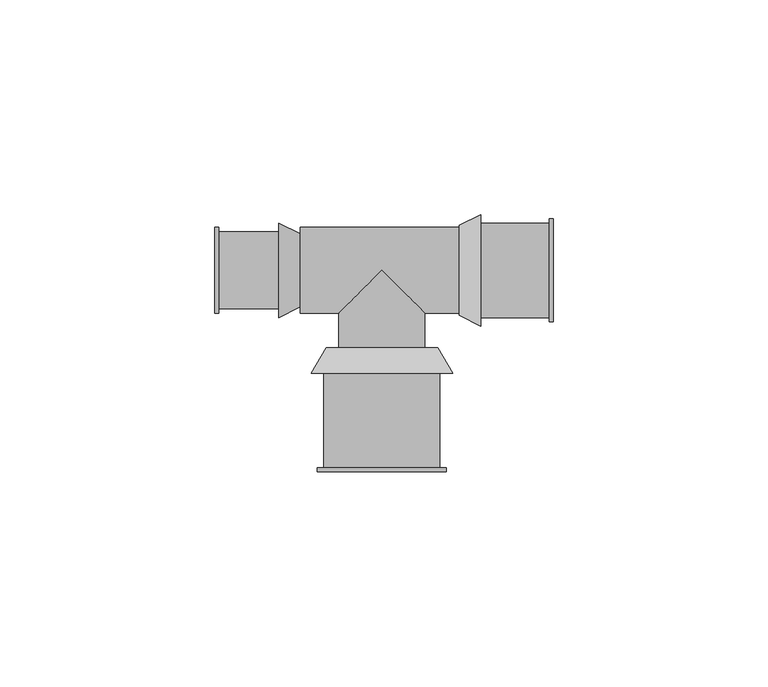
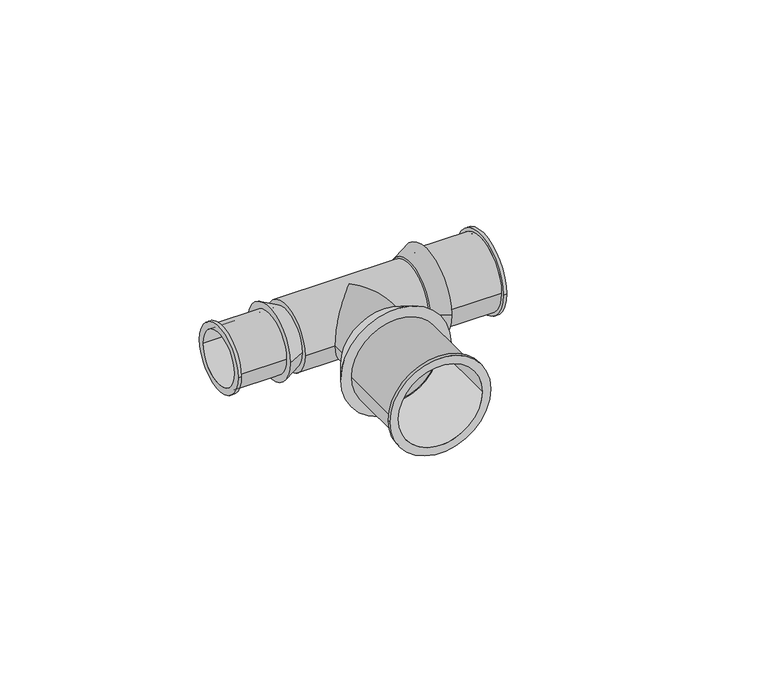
"""IFC4 building model written with IfcOpenShell, lengths in millimetres: pipe fitting geometry, SuperPipe_Tee_SPressPlus : SuperPipe_Tee_SPressPlus."""

import ifcopenshell
import ifcopenshell.guid

model = None  # the IFC model being written
_history = None  # IfcOwnerHistory: only IFC2X3 demands one
_inside = {}  # id of a spatial element -> (the spatial element, [elements in it])
_under = {}  # id of a project, library or spatial element -> (it, [spatial elements below it])
_declared = {}  # id of a project -> (the project, [libraries it declares])
_typed = {}  # id of a type object -> (the type object, [elements of that type])
_made_of = {}  # id of a material, layer set ... -> (it, [elements and type objects made of it])


def new_model(schema):
    """Start an empty IFC model of exactly this schema.

    Asked for "IFC4X3", IfcOpenShell would pick the latest addendum, in which some entities
    have other attributes; the version numbers below select the first issue.
    IFC2X3 requires an IfcOwnerHistory on every rooted entity: one is made here for all.
    """
    global model, _history
    if schema == "IFC4X3":
        model = ifcopenshell.file(schema_version=(4, 3, 0, 0))
    else:
        model = ifcopenshell.file(schema=schema)
    _inside.clear()
    _under.clear()
    _declared.clear()
    _typed.clear()
    _made_of.clear()
    _history = None
    if model.schema == "IFC2X3":
        org = make("IfcOrganization", Name="unknown")
        user = make(
            "IfcPersonAndOrganization",
            ThePerson=make("IfcPerson", FamilyName="unknown"),
            TheOrganization=org,
        )
        app = make(
            "IfcApplication",
            ApplicationDeveloper=org,
            Version="unknown",
            ApplicationFullName="unknown",
            ApplicationIdentifier="unknown",
        )
        _history = make(
            "IfcOwnerHistory",
            OwningUser=user,
            OwningApplication=app,
            ChangeAction="ADDED",
            CreationDate=0,
        )
    return model


def make(cls, **values):
    """One entity of the class cls with the attributes given. An attribute that is None is left unset."""
    return model.create_entity(
        cls, **{name: value for name, value in values.items() if value is not None}
    )


def rooted(cls, **values):
    """An entity with a GlobalId (a new one), such as an element, a storey or a relation."""
    return make(cls, GlobalId=ifcopenshell.guid.new(), OwnerHistory=_history, **values)


def si_unit(unit_type, name, prefix=None):
    """IfcSIUnit, for example si_unit("LENGTHUNIT", "METRE", prefix="MILLI")."""
    return make("IfcSIUnit", UnitType=unit_type, Prefix=prefix, Name=name)


def assignment(units):
    """IfcUnitAssignment: the units of a project."""
    return None if units is None else make("IfcUnitAssignment", Units=units)


def point(xyz):
    """IfcCartesianPoint."""
    return None if xyz is None else make("IfcCartesianPoint", Coordinates=xyz)


def direction(xyz):
    """IfcDirection."""
    return None if xyz is None else make("IfcDirection", DirectionRatios=xyz)


def frame(location, z_axis=None, x_axis=None):
    """IfcAxis2Placement3D, a coordinate frame: its origin and axes. An axis left out is left unset."""
    return make(
        "IfcAxis2Placement3D",
        Location=point(location),
        Axis=direction(z_axis),
        RefDirection=direction(x_axis),
    )


def frame_2d(location, x_axis=None):
    """IfcAxis2Placement2D, a coordinate frame in the plane: its origin and x axis."""
    return make(
        "IfcAxis2Placement2D", Location=point(location), RefDirection=direction(x_axis)
    )


def origin():
    """The frame at (0, 0, 0) with its axes left unset."""
    return frame((0.0, 0.0, 0.0))


def origin_2d():
    """The frame at (0, 0) in the plane with its x axis left unset."""
    return frame_2d((0.0, 0.0))


def place(relative_to, where):
    """IfcLocalPlacement: puts the frame where relative to a parent placement (None: the world)."""
    return make(
        "IfcLocalPlacement", PlacementRelTo=relative_to, RelativePlacement=where
    )


def context(
    kind, dimensions, precision=None, world=None, true_north=None, identifier=None
):
    """IfcGeometricRepresentationContext, for example the 3D "Model" context."""
    return make(
        "IfcGeometricRepresentationContext",
        ContextIdentifier=identifier,
        ContextType=kind,
        CoordinateSpaceDimension=dimensions,
        Precision=precision,
        WorldCoordinateSystem=world,
        TrueNorth=true_north,
    )


def project(units=None, contexts=None):
    """IfcProject with its units and contexts."""
    return rooted(
        "IfcProject",
        Name="project",
        RepresentationContexts=contexts,
        UnitsInContext=assignment(units),
    )


def spatial(cls, under=None, at=None, **own):
    """A site, building, storey or space (cls), placed at a placement, below another one or the project."""
    s = rooted(cls, ObjectPlacement=at, **own)
    if under is not None:
        _under.setdefault(under.id(), (under, []))[1].append(s)
    return s


def polyline(points):
    """IfcPolyline through the points."""
    return make("IfcPolyline", Points=[point(p) for p in points])


def circle_curve(where, radius):
    """IfcCircle in the frame where."""
    return make("IfcCircle", Position=where, Radius=radius)


def ellipse_curve(where, semi_axis1, semi_axis2):
    """IfcEllipse in the frame where."""
    return make(
        "IfcEllipse", Position=where, SemiAxis1=semi_axis1, SemiAxis2=semi_axis2
    )


def trimmed(basis, trim1, trim2, sense, master):
    """IfcTrimmedCurve: the piece of a basis curve between two trims."""
    return make(
        "IfcTrimmedCurve",
        BasisCurve=basis,
        Trim1=trim1,
        Trim2=trim2,
        SenseAgreement=sense,
        MasterRepresentation=master,
    )


def segment(curve, same_sense, transition):
    """IfcCompositeCurveSegment."""
    return make(
        "IfcCompositeCurveSegment",
        Transition=transition,
        SameSense=same_sense,
        ParentCurve=curve,
    )


def composite_curve(segments, self_intersect=None):
    """IfcCompositeCurve: segments joined end to end."""
    return make("IfcCompositeCurve", Segments=segments, SelfIntersect=self_intersect)


def outline(outer, holes=None, kind="AREA"):
    """IfcArbitraryClosedProfileDef: a profile drawn as a closed curve; with holes, ...WithVoids."""
    if holes is None:
        return make("IfcArbitraryClosedProfileDef", ProfileType=kind, OuterCurve=outer)
    return make(
        "IfcArbitraryProfileDefWithVoids",
        ProfileType=kind,
        OuterCurve=outer,
        InnerCurves=holes,
    )


def extrude(swept, where, along, depth):
    """IfcExtrudedAreaSolid: the profile swept, set in the frame where, extruded along a direction by depth."""
    return make(
        "IfcExtrudedAreaSolid",
        SweptArea=swept,
        Position=where,
        ExtrudedDirection=direction(along),
        Depth=depth,
    )


def shape(context_of_items, identifier, shape_type, items):
    """IfcShapeRepresentation: the items that make up one representation, for example the "Body"."""
    return make(
        "IfcShapeRepresentation",
        ContextOfItems=context_of_items,
        RepresentationIdentifier=identifier,
        RepresentationType=shape_type,
        Items=items,
    )


def source(mapping_origin, context_of_items, identifier, shape_type, items):
    """IfcRepresentationMap: a shape defined once, which mapped items show again and again."""
    return make(
        "IfcRepresentationMap",
        MappingOrigin=mapping_origin,
        MappedRepresentation=shape(context_of_items, identifier, shape_type, items),
    )


def transform(
    local_origin,
    x_axis=None,
    y_axis=None,
    z_axis=None,
    scale=None,
    scale2=None,
    scale3=None,
    uniform=True,
):
    """IfcCartesianTransformationOperator3D, or its non-uniform kind. x_axis, y_axis, z_axis: its Axis1, 2, 3."""
    if uniform:
        return make(
            "IfcCartesianTransformationOperator3D",
            Axis1=direction(x_axis),
            Axis2=direction(y_axis),
            LocalOrigin=point(local_origin),
            Scale=scale,
            Axis3=direction(z_axis),
        )
    return make(
        "IfcCartesianTransformationOperator3DnonUniform",
        Axis1=direction(x_axis),
        Axis2=direction(y_axis),
        LocalOrigin=point(local_origin),
        Scale=scale,
        Axis3=direction(z_axis),
        Scale2=scale2,
        Scale3=scale3,
    )


def mapped(mapping_source, mapping_target):
    """IfcMappedItem: shows the shape of a source again, moved by a transform."""
    return make(
        "IfcMappedItem", MappingSource=mapping_source, MappingTarget=mapping_target
    )


def made_of(thing, what):
    """Note that an element or type object is made of a material, layer set ...; save() writes the relation."""
    if what is not None:
        _made_of.setdefault(what.id(), (what, []))[1].append(thing)
    return thing


def element(
    cls,
    number,
    at=None,
    inside=None,
    cuts=None,
    type_object=None,
    material=None,
    context=None,
    identifier="Body",
    shape_type=None,
    held_by="IfcProductDefinitionShape",
    body=None,
    shapes=None,
    **own,
):
    """One element of the class cls, such as IfcWall. Its Tag is "e" and its number.

    at: its placement. inside: the storey or other place that contains it. cuts: it is an
    opening in that element (IfcRelVoidsElement). A single representation is given by context,
    identifier, shape_type and body (its items); several are given by shapes. held_by: the class
    of the entity that holds the representations. save() writes the other relations.
    """
    e = rooted(cls, Tag="e%d" % number, ObjectPlacement=at, **own)
    if body is not None:
        shapes = [shape(context, identifier, shape_type, body)]
    if shapes is not None:
        e.Representation = make(held_by, Representations=shapes)
    if inside is not None:
        _inside.setdefault(inside.id(), (inside, []))[1].append(e)
    if cuts is not None:
        rooted(
            "IfcRelVoidsElement", RelatingBuildingElement=cuts, RelatedOpeningElement=e
        )
    if type_object is not None:
        _typed.setdefault(type_object.id(), (type_object, []))[1].append(e)
    return made_of(e, material)


def aggregate(whole, parts):
    """IfcRelAggregates: a whole, such as a stair, and the parts it consists of."""
    return rooted("IfcRelAggregates", RelatingObject=whole, RelatedObjects=parts)


def save(model, path):
    """Write the relations noted so far, then the file.

    IfcRelAggregates (storeys below a building ...), IfcRelContainedInSpatialStructure (elements
    in a storey), IfcRelDefinesByType, IfcRelAssociatesMaterial and IfcRelDeclares: one each for
    every whole, place, type object, material and project.
    """
    for whole, parts in _under.values():
        aggregate(whole, parts)
    for where, things in _inside.values():
        rooted(
            "IfcRelContainedInSpatialStructure",
            RelatedElements=things,
            RelatingStructure=where,
        )
    for kind, things in _typed.values():
        rooted("IfcRelDefinesByType", RelatedObjects=things, RelatingType=kind)
    for what, things in _made_of.values():
        rooted("IfcRelAssociatesMaterial", RelatedObjects=things, RelatingMaterial=what)
    for by, libraries in _declared.values():
        rooted("IfcRelDeclares", RelatingContext=by, RelatedDefinitions=libraries)
    model.write(path)


def plane_surface(at):
    """IfcPlane: the flat surface through the origin of the frame at, square to its z axis."""
    return make("IfcPlane", Position=at)


def cylinder_surface(at, radius):
    """IfcCylindricalSurface: all points at the distance radius from the z axis of the frame at."""
    return make("IfcCylindricalSurface", Position=at, Radius=radius)


def revolved_surface(curve, axis_point, axis_direction):
    """IfcSurfaceOfRevolution: the curve turned about the line through axis_point along axis_direction."""
    return make(
        "IfcSurfaceOfRevolution",
        SweptCurve=make("IfcArbitraryOpenProfileDef", ProfileType="CURVE", Curve=curve),
        AxisPosition=make("IfcAxis1Placement", Location=point(axis_point), Axis=direction(axis_direction)),
    )


def advanced_brep(points, edges, surfaces, faces):
    """IfcAdvancedBrep: a solid bounded by faces that lie on surfaces and meet in shared edges.

    An edge is (start, end): straight between two places in points (the first is 0);
    or (start, end, curve); or (start, end, curve, False) where it runs against its curve.
    A face is (place in surfaces, loops), or (place, loops, False) where it looks against
    its surface's normal. A loop lists edges by number (the first is 1), with a minus sign
    where the edge is run from its end to its start. The first loop is the outer one.
    """
    corners = [point(p) for p in points]
    vertices = [make("IfcVertexPoint", VertexGeometry=c) for c in corners]
    made = []
    for start, end, *more in edges:
        made.append(
            make(
                "IfcEdgeCurve",
                EdgeStart=vertices[start],
                EdgeEnd=vertices[end],
                EdgeGeometry=more[0] if more else make("IfcPolyline", Points=[corners[start], corners[end]]),
                SameSense=more[1] if len(more) > 1 else True,
            )
        )
    hull = []
    for where, loops, *sense in faces:
        bounds = []
        for j, loop in enumerate(loops):
            ring = [make("IfcOrientedEdge", EdgeElement=made[abs(k) - 1], Orientation=k > 0) for k in loop]
            bounds.append(
                make(
                    "IfcFaceOuterBound" if j == 0 else "IfcFaceBound",
                    Bound=make("IfcEdgeLoop", EdgeList=ring),
                    Orientation=True,
                )
            )
        hull.append(make("IfcAdvancedFace", Bounds=bounds, FaceSurface=surfaces[where], SameSense=sense[0] if sense else True))
    return make("IfcAdvancedBrep", Outer=make("IfcClosedShell", CfsFaces=hull))


def pipe_fitting_6f6e23ca(model_context):
    return source(origin(), model_context, "Body", "SolidModel", [
        advanced_brep(
        [(-39.0, -10.0, 0.0), (-39.0, 10.0, 0.0), (-39.0, -8.0, 0.0), (-39.0, 8.0, 0.0), (-24.0, -9.0, 0.0), (-24.0, 9.0, 0.0), (-24.0, -8.0, 0.0), (-24.0, 8.0, 0.0), (-38.0, -8.0, 0.0), (-38.0, 8.0, 0.0), (-38.0, 9.0, 0.0), (-38.0, -9.0, 0.0), (-38.0, -10.0, 0.0), (-38.0, 10.0, 0.0)],
        [
            (0, 1, circle_curve(frame((-39.0, 0.0, 0.0), z_axis=(-1.0, 0.0, 0.0), x_axis=(0.0, 1.0, 0.0)), 10.0)),
            (1, 0, circle_curve(frame((-39.0, 0.0, 0.0), z_axis=(-1.0, 0.0, 0.0), x_axis=(0.0, 1.0, 0.0)), 10.0)),
            (2, 3, circle_curve(frame((-39.0, 0.0, 0.0), z_axis=(1.0, 0.0, 0.0), x_axis=(0.0, 1.0, 0.0)), 8.0)),
            (3, 2, circle_curve(frame((-39.0, 0.0, 0.0), z_axis=(1.0, 0.0, 0.0), x_axis=(0.0, 1.0, 0.0)), 8.0)),
            (4, 5, circle_curve(frame((-24.0, 0.0, 0.0), z_axis=(1.0, 0.0, 0.0), x_axis=(0.0, 1.0, 0.0)), 9.0)),
            (5, 4, circle_curve(frame((-24.0, 0.0, 0.0), z_axis=(1.0, 0.0, 0.0), x_axis=(0.0, 1.0, 0.0)), 9.0)),
            (6, 7, circle_curve(frame((-24.0, 0.0, 0.0), z_axis=(-1.0, 0.0, 0.0), x_axis=(0.0, 1.0, 0.0)), 8.0)),
            (7, 6, circle_curve(frame((-24.0, 0.0, 0.0), z_axis=(-1.0, 0.0, 0.0), x_axis=(0.0, 1.0, 0.0)), 8.0)),
            (2, 8),
            (8, 6),
            (7, 9),
            (9, 3),
            (5, 10),
            (10, 11, circle_curve(frame((-38.0, 0.0, 0.0), z_axis=(1.0, 0.0, 0.0), x_axis=(0.0, 1.0, 0.0)), 9.0)),
            (11, 4),
            (11, 10, circle_curve(frame((-38.0, 0.0, 0.0), z_axis=(1.0, 0.0, 0.0), x_axis=(0.0, 1.0, 0.0)), 9.0)),
            (12, 13, circle_curve(frame((-38.0, 0.0, 0.0), z_axis=(1.0, 0.0, 0.0), x_axis=(0.0, 1.0, 0.0)), 10.0)),
            (13, 12, circle_curve(frame((-38.0, 0.0, 0.0), z_axis=(1.0, 0.0, 0.0), x_axis=(0.0, 1.0, 0.0)), 10.0)),
            (0, 12),
            (13, 1),
        ],
        [
            plane_surface(frame((-39.0, 0.0, 0.0), z_axis=(-1.0, 0.0, 0.0), x_axis=(0.0, 0.0, 1.0))),
            plane_surface(frame((-24.0, 0.0, 0.0), z_axis=(1.0, 0.0, 0.0), x_axis=(0.0, 0.0, 1.0))),
            revolved_surface(polyline([(-24.0, 8.0, 0.0), (-39.0, 8.0, 0.0)]), (-39.0, 0.0, 0.0), (1.0, 0.0, 0.0)),
            cylinder_surface(frame((-39.0, 0.0, 0.0), z_axis=(-1.0, 0.0, 0.0), x_axis=(0.0, 1.0, 0.0)), 9.0),
            plane_surface(frame((-38.0, 0.0, 0.0), z_axis=(1.0, 0.0, 0.0), x_axis=(0.0, 0.0, 1.0))),
            cylinder_surface(frame((-39.0, 0.0, 0.0), z_axis=(-1.0, 0.0, 0.0), x_axis=(0.0, 1.0, 0.0)), 10.0),
        ],
        [
            (0, [[1, 2], [3, 4]]),
            (1, [[5, 6], [7, 8]]),
            (2, [[-3, 9, 10, -8, 11, 12]]),
            (2, [[-4, -12, -11, -7, -10, -9]]),
            (3, [[-6, 13, 14, 15]]),
            (3, [[-5, -15, 16, -13]]),
            (4, [[17, 18], [-14, -16]]),
            (5, [[-1, 19, -18, 20]]),
            (5, [[-2, -20, -17, -19]]),
        ],
    ),
        advanced_brep(
        [(23.0, -11.0, 0.0), (23.0, 11.0, 0.0), (23.0, -10.0, 0.0), (23.0, 10.0, 0.0), (40.0, -12.0, 0.0), (40.0, 12.0, 0.0), (40.0, -10.0, 0.0), (40.0, 10.0, 0.0), (39.0, -11.0, 0.0), (39.0, 11.0, 0.0), (39.0, -10.0, 0.0), (39.0, 10.0, 0.0), (39.0, -12.0, 0.0), (39.0, 12.0, 0.0)],
        [
            (0, 1, circle_curve(frame((23.0, 0.0, 0.0), z_axis=(-1.0, 0.0, 0.0), x_axis=(0.0, 1.0, 0.0)), 11.0)),
            (1, 0, circle_curve(frame((23.0, 0.0, 0.0), z_axis=(-1.0, 0.0, 0.0), x_axis=(0.0, 1.0, 0.0)), 11.0)),
            (2, 3, circle_curve(frame((23.0, 0.0, 0.0), z_axis=(1.0, 0.0, 0.0), x_axis=(0.0, 1.0, 0.0)), 10.0)),
            (3, 2, circle_curve(frame((23.0, 0.0, 0.0), z_axis=(1.0, 0.0, 0.0), x_axis=(0.0, 1.0, 0.0)), 10.0)),
            (4, 5, circle_curve(frame((40.0, 0.0, 0.0), z_axis=(1.0, 0.0, 0.0), x_axis=(0.0, 1.0, 0.0)), 12.0)),
            (5, 4, circle_curve(frame((40.0, 0.0, 0.0), z_axis=(1.0, 0.0, 0.0), x_axis=(0.0, 1.0, 0.0)), 12.0)),
            (6, 7, circle_curve(frame((40.0, 0.0, 0.0), z_axis=(-1.0, 0.0, 0.0), x_axis=(0.0, 1.0, 0.0)), 10.0)),
            (7, 6, circle_curve(frame((40.0, 0.0, 0.0), z_axis=(-1.0, 0.0, 0.0), x_axis=(0.0, 1.0, 0.0)), 10.0)),
            (0, 8),
            (8, 9, circle_curve(frame((39.0, 0.0, 0.0), z_axis=(-1.0, 0.0, 0.0), x_axis=(0.0, 1.0, 0.0)), 11.0)),
            (9, 1),
            (9, 8, circle_curve(frame((39.0, 0.0, 0.0), z_axis=(-1.0, 0.0, 0.0), x_axis=(0.0, 1.0, 0.0)), 11.0)),
            (2, 10),
            (10, 6),
            (7, 11),
            (11, 3),
            (12, 13, circle_curve(frame((39.0, 0.0, 0.0), z_axis=(-1.0, 0.0, 0.0), x_axis=(0.0, 1.0, 0.0)), 12.0)),
            (13, 12, circle_curve(frame((39.0, 0.0, 0.0), z_axis=(-1.0, 0.0, 0.0), x_axis=(0.0, 1.0, 0.0)), 12.0)),
            (12, 4),
            (5, 13),
        ],
        [
            plane_surface(frame((23.0, 0.0, 0.0), z_axis=(-1.0, 0.0, 0.0), x_axis=(0.0, 0.0, 1.0))),
            plane_surface(frame((40.0, 0.0, 0.0), z_axis=(1.0, 0.0, 0.0), x_axis=(0.0, 0.0, 1.0))),
            cylinder_surface(frame((23.0, 0.0, 0.0), z_axis=(-1.0, 0.0, 0.0), x_axis=(0.0, 1.0, 0.0)), 11.0),
            revolved_surface(polyline([(40.0, 10.0, 0.0), (23.0, 10.0, 0.0)]), (23.0, 0.0, 0.0), (1.0, 0.0, 0.0)),
            plane_surface(frame((39.0, 0.0, 0.0), z_axis=(-1.0, 0.0, 0.0), x_axis=(0.0, 0.0, 1.0))),
            cylinder_surface(frame((39.0, 0.0, 0.0), z_axis=(-1.0, 0.0, 0.0), x_axis=(0.0, 1.0, 0.0)), 12.0),
        ],
        [
            (0, [[1, 2], [3, 4]]),
            (1, [[5, 6], [7, 8]]),
            (2, [[-1, 9, 10, 11]]),
            (2, [[-2, -11, 12, -9]]),
            (3, [[-3, 13, 14, -8, 15, 16]]),
            (3, [[-4, -16, -15, -7, -14, -13]]),
            (4, [[17, 18], [-10, -12]]),
            (5, [[-17, 19, -6, 20]]),
            (5, [[-18, -20, -5, -19]]),
        ],
    ),
        advanced_brep(
        [(-16.5, -24.0, 0.0), (16.5, -24.0, 0.0), (-12.5, -24.0, 0.0), (12.5, -24.0, 0.0), (-13.0, -18.0, 0.0), (13.0, -18.0, 0.0), (-12.5, -19.0, 0.0), (12.5, -19.0, 0.0)],
        [
            (0, 1, circle_curve(frame((0.0, -24.0, 0.0), z_axis=(0.0, -1.0, 0.0), x_axis=(-1.0, 0.0, 0.0)), 16.5)),
            (1, 0, circle_curve(frame((0.0, -24.0, 0.0), z_axis=(0.0, -1.0, 0.0), x_axis=(1.0, 0.0, 0.0)), 16.5)),
            (2, 3, circle_curve(frame((0.0, -24.0, 0.0), z_axis=(0.0, 1.0, 0.0), x_axis=(1.0, 0.0, 0.0)), 12.5)),
            (3, 2, circle_curve(frame((0.0, -24.0, 0.0), z_axis=(0.0, 1.0, 0.0), x_axis=(1.0, 0.0, 0.0)), 12.5)),
            (4, 5, circle_curve(frame((0.0, -18.0, 0.0), z_axis=(0.0, 1.0, 0.0), x_axis=(1.0, 0.0, 0.0)), 13.0)),
            (5, 4, circle_curve(frame((0.0, -18.0, 0.0), z_axis=(0.0, 1.0, 0.0), x_axis=(-1.0, 0.0, 0.0)), 13.0)),
            (0, 4),
            (5, 1),
            (6, 7, circle_curve(frame((0.0, -19.0, 0.0), z_axis=(0.0, -1.0, 0.0), x_axis=(1.0, 0.0, 0.0)), 12.5)),
            (7, 6, circle_curve(frame((0.0, -19.0, 0.0), z_axis=(0.0, -1.0, 0.0), x_axis=(1.0, 0.0, 0.0)), 12.5)),
            (7, 3),
            (2, 6),
        ],
        [
            plane_surface(frame((0.0, -24.0, 0.0), z_axis=(0.0, -1.0, 0.0), x_axis=(0.0, 0.0, -1.0))),
            plane_surface(frame((0.0, -18.0, 0.0), z_axis=(0.0, 1.0, 0.0), x_axis=(0.0, 0.0, -1.0))),
            revolved_surface(polyline([(13.000000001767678, -18.0, 0.0), (16.5, -24.0, 0.0)]), (0.0, 4.2857143, 0.0), (0.0, -1.0, 0.0)),
            revolved_surface(polyline([(-13.000000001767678, -18.0, 0.0), (-16.5, -24.0, 0.0)]), (0.0, 4.2857143, 0.0), (0.0, -1.0, 0.0)),
            plane_surface(frame((0.0, -19.0, 0.0), z_axis=(0.0, -1.0, 0.0), x_axis=(0.0, 0.0, 1.0))),
            revolved_surface(polyline([(12.5, -19.0, 0.0), (12.5, -24.0, 0.0)]), (0.0, -19.0, 0.0), (0.0, 1.0, 0.0)),
        ],
        [
            (0, [[1, 2], [3, 4]]),
            (1, [[5, 6]]),
            (2, [[-1, 7, -6, 8]]),
            (3, [[-2, -8, -5, -7]]),
            (4, [[9, 10]]),
            (5, [[-10, 11, -3, 12]]),
            (5, [[-9, -12, -4, -11]]),
        ],
    ),
        advanced_brep(
        [(23.0, -13.0, 0.0), (23.0, 13.0, 0.0), (23.0, 10.0, 0.0), (23.0, -10.0, 0.0), (18.0, -10.5, 0.0), (18.0, 10.5, 0.0), (19.0, -10.0, 0.0), (19.0, 10.0, 0.0)],
        [
            (0, 1, circle_curve(frame((23.0, 0.0, 0.0), z_axis=(1.0, 0.0, 0.0), x_axis=(0.0, -1.0, 0.0)), 13.0)),
            (1, 0, circle_curve(frame((23.0, 0.0, 0.0), z_axis=(1.0, 0.0, 0.0), x_axis=(0.0, 1.0, 0.0)), 13.0)),
            (2, 3, circle_curve(frame((23.0, 0.0, 0.0), z_axis=(-1.0, 0.0, 0.0), x_axis=(0.0, 1.0, 0.0)), 10.0)),
            (3, 2, circle_curve(frame((23.0, 0.0, 0.0), z_axis=(-1.0, 0.0, 0.0), x_axis=(0.0, 1.0, 0.0)), 10.0)),
            (4, 5, circle_curve(frame((18.0, 0.0, 0.0), z_axis=(-1.0, 0.0, 0.0), x_axis=(0.0, 1.0, 0.0)), 10.5)),
            (5, 4, circle_curve(frame((18.0, 0.0, 0.0), z_axis=(-1.0, 0.0, 0.0), x_axis=(0.0, -1.0, 0.0)), 10.5)),
            (0, 4),
            (5, 1),
            (6, 7, circle_curve(frame((19.0, 0.0, 0.0), z_axis=(1.0, 0.0, 0.0), x_axis=(0.0, 1.0, 0.0)), 10.0)),
            (7, 6, circle_curve(frame((19.0, 0.0, 0.0), z_axis=(1.0, 0.0, 0.0), x_axis=(0.0, 1.0, 0.0)), 10.0)),
            (6, 3),
            (2, 7),
        ],
        [
            plane_surface(frame((23.0, 0.0, 0.0), z_axis=(1.0, 0.0, 0.0), x_axis=(0.0, 0.0, -1.0))),
            plane_surface(frame((18.0, 0.0, 0.0), z_axis=(-1.0, 0.0, 0.0), x_axis=(0.0, 0.0, -1.0))),
            revolved_surface(polyline([(18.0, 10.5, 0.0), (23.0, 13.0, 0.0)]), (-3.0, 0.0, 0.0), (1.0, 0.0, 0.0)),
            revolved_surface(polyline([(18.0, -10.5, 0.0), (23.0, -13.0, 0.0)]), (-3.0, 0.0, 0.0), (1.0, 0.0, 0.0)),
            plane_surface(frame((19.0, 10.0, 0.0), z_axis=(1.0, 0.0, 0.0), x_axis=(0.0, 0.0, -1.0))),
            revolved_surface(polyline([(23.0, 10.0, 0.0), (19.0, 10.0, 0.0)]), (19.0, 0.0, 0.0), (1.0, 0.0, 0.0)),
        ],
        [
            (0, [[1, 2], [3, 4]]),
            (1, [[5, 6]]),
            (2, [[-1, 7, -6, 8]]),
            (3, [[-2, -8, -5, -7]]),
            (4, [[9, 10]]),
            (5, [[-9, 11, -3, 12]]),
            (5, [[-10, -12, -4, -11]]),
        ],
    ),
        advanced_brep(
        [(-19.0, -8.5, 0.0), (-19.0, 8.5, 0.0), (-24.0, -11.0, 0.0), (-24.0, 11.0, 0.0), (-24.0, -8.0, 0.0), (-24.0, 8.0, 0.0), (-20.0, -8.0, 0.0), (-20.0, 8.0, 0.0)],
        [
            (0, 1, circle_curve(frame((-19.0, 0.0, 0.0), z_axis=(1.0, 0.0, 0.0), x_axis=(0.0, -1.0, 0.0)), 8.5)),
            (1, 0, circle_curve(frame((-19.0, 0.0, 0.0), z_axis=(1.0, 0.0, 0.0), x_axis=(0.0, 1.0, 0.0)), 8.5)),
            (2, 3, circle_curve(frame((-24.0, 0.0, 0.0), z_axis=(-1.0, 0.0, 0.0), x_axis=(0.0, 1.0, 0.0)), 11.0)),
            (3, 2, circle_curve(frame((-24.0, 0.0, 0.0), z_axis=(-1.0, 0.0, 0.0), x_axis=(0.0, -1.0, 0.0)), 11.0)),
            (4, 5, circle_curve(frame((-24.0, 0.0, 0.0), z_axis=(1.0, 0.0, 0.0), x_axis=(0.0, 1.0, 0.0)), 8.0)),
            (5, 4, circle_curve(frame((-24.0, 0.0, 0.0), z_axis=(1.0, 0.0, 0.0), x_axis=(0.0, 1.0, 0.0)), 8.0)),
            (0, 2),
            (3, 1),
            (6, 7, circle_curve(frame((-20.0, 0.0, 0.0), z_axis=(-1.0, 0.0, 0.0), x_axis=(0.0, 1.0, 0.0)), 8.0)),
            (7, 6, circle_curve(frame((-20.0, 0.0, 0.0), z_axis=(-1.0, 0.0, 0.0), x_axis=(0.0, 1.0, 0.0)), 8.0)),
            (7, 5),
            (4, 6),
        ],
        [
            plane_surface(frame((-19.0, 0.0, 0.0), z_axis=(1.0, 0.0, 0.0), x_axis=(0.0, 0.0, -1.0))),
            plane_surface(frame((-24.0, 0.0, 0.0), z_axis=(-1.0, 0.0, 0.0), x_axis=(0.0, 0.0, -1.0))),
            revolved_surface(polyline([(-19.0, -8.5, 0.0), (-24.0, -11.0, 0.0)]), (-2.0, 0.0, 0.0), (-1.0, 0.0, 0.0)),
            revolved_surface(polyline([(-19.0, 8.5, 0.0), (-24.0, 11.0, 0.0)]), (-2.0, 0.0, 0.0), (-1.0, 0.0, 0.0)),
            plane_surface(frame((-20.0, 8.0, 0.0), z_axis=(-1.0, 0.0, 0.0), x_axis=(0.0, 0.0, 1.0))),
            revolved_surface(polyline([(-20.0, 8.0, 0.0), (-24.0, 8.0, 0.0)]), (-24.0, 0.0, 0.0), (1.0, 0.0, 0.0)),
        ],
        [
            (0, [[1, 2]]),
            (1, [[3, 4], [5, 6]]),
            (2, [[-1, 7, -4, 8]]),
            (3, [[-2, -8, -3, -7]]),
            (4, [[9, 10]]),
            (5, [[-10, 11, -5, 12]]),
            (5, [[-9, -12, -6, -11]]),
        ],
    ),
        advanced_brep(
        [(-10.0, -18.0, 0.0), (10.0, -18.0, 0.0), (10.0, -10.0, 0.0), (0.0, 0.0, 10.0), (-10.0, -10.0, 0.0), (0.0, 0.0, -10.0)],
        [
            (0, 1, circle_curve(frame((0.0, -18.0, 0.0), z_axis=(0.0, -1.0, 0.0), x_axis=(1.0, 0.0, 0.0)), 10.0)),
            (1, 0, circle_curve(frame((0.0, -18.0, 0.0), z_axis=(0.0, -1.0, 0.0), x_axis=(1.0, 0.0, 0.0)), 10.0)),
            (1, 2),
            (2, 3, ellipse_curve(frame((0.0, 0.0, 0.0), z_axis=(-0.7071067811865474, -0.7071067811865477, 0.0), x_axis=(-0.7071067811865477, 0.7071067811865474, 0.0)), 14.1421356, 10.0)),
            (3, 4, ellipse_curve(frame((0.0, 0.0, 0.0), z_axis=(0.7071067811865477, -0.7071067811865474, 0.0), x_axis=(0.7071067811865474, 0.7071067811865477, 0.0)), 14.1421356, 10.0)),
            (4, 0),
            (4, 5, ellipse_curve(frame((0.0, 0.0, 0.0), z_axis=(0.7071067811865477, -0.7071067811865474, 0.0), x_axis=(0.7071067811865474, 0.7071067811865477, 0.0)), 14.1421356, 10.0)),
            (5, 2, ellipse_curve(frame((0.0, 0.0, 0.0), z_axis=(-0.7071067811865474, -0.7071067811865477, 0.0), x_axis=(-0.7071067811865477, 0.7071067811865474, 0.0)), 14.1421356, 10.0)),
            (2, 4),
        ],
        [
            plane_surface(frame((0.0, -18.0, 0.0), z_axis=(0.0, -1.0, 0.0), x_axis=(0.0, 0.0, 1.0))),
            cylinder_surface(frame((0.0, 0.0, 0.0), z_axis=(0.0, 1.0, 0.0), x_axis=(1.0, 0.0, 0.0)), 10.0),
            revolved_surface(polyline([(-10.0, 10.0, 0.0), (10.0, 10.0, 0.0)]), (-95.8358145, 0.0, 0.0), (-1.0, 0.0, 0.0)),
        ],
        [
            (0, [[1, 2]]),
            (1, [[-2, 3, 4, 5, 6]]),
            (1, [[-1, -6, 7, 8, -3]]),
            (2, [[9, -5, -4]]),
            (2, [[-9, -8, -7]]),
        ],
    ),
        advanced_brep(
        [(-13.5, -24.0, 0.0), (13.5, -24.0, 0.0), (-12.5, -24.0, 0.0), (12.5, -24.0, 0.0), (-15.0, -47.0, 0.0), (15.0, -47.0, 0.0), (-12.5, -47.0, 0.0), (12.5, -47.0, 0.0), (-13.5, -46.0, 0.0), (13.5, -46.0, 0.0), (-15.0, -46.0, 0.0), (15.0, -46.0, 0.0)],
        [
            (0, 1, circle_curve(frame((0.0, -24.0, 0.0), z_axis=(0.0, 1.0, 0.0), x_axis=(1.0, 0.0, 0.0)), 13.5)),
            (1, 0, circle_curve(frame((0.0, -24.0, 0.0), z_axis=(0.0, 1.0, 0.0), x_axis=(1.0, 0.0, 0.0)), 13.5)),
            (2, 3, circle_curve(frame((0.0, -24.0, 0.0), z_axis=(0.0, -1.0, 0.0), x_axis=(1.0, 0.0, 0.0)), 12.5)),
            (3, 2, circle_curve(frame((0.0, -24.0, 0.0), z_axis=(0.0, -1.0, 0.0), x_axis=(1.0, 0.0, 0.0)), 12.5)),
            (4, 5, circle_curve(frame((0.0, -47.0, 0.0), z_axis=(0.0, -1.0, 0.0), x_axis=(1.0, 0.0, 0.0)), 15.0)),
            (5, 4, circle_curve(frame((0.0, -47.0, 0.0), z_axis=(0.0, -1.0, 0.0), x_axis=(1.0, 0.0, 0.0)), 15.0)),
            (6, 7, circle_curve(frame((0.0, -47.0, 0.0), z_axis=(0.0, 1.0, 0.0), x_axis=(1.0, 0.0, 0.0)), 12.5)),
            (7, 6, circle_curve(frame((0.0, -47.0, 0.0), z_axis=(0.0, 1.0, 0.0), x_axis=(1.0, 0.0, 0.0)), 12.5)),
            (2, 6),
            (7, 3),
            (0, 8),
            (8, 9, circle_curve(frame((0.0, -46.0, 0.0), z_axis=(0.0, 1.0, 0.0), x_axis=(1.0, 0.0, 0.0)), 13.5)),
            (9, 1),
            (9, 8, circle_curve(frame((0.0, -46.0, 0.0), z_axis=(0.0, 1.0, 0.0), x_axis=(1.0, 0.0, 0.0)), 13.5)),
            (10, 11, circle_curve(frame((0.0, -46.0, 0.0), z_axis=(0.0, 1.0, 0.0), x_axis=(1.0, 0.0, 0.0)), 15.0)),
            (11, 10, circle_curve(frame((0.0, -46.0, 0.0), z_axis=(0.0, 1.0, 0.0), x_axis=(1.0, 0.0, 0.0)), 15.0)),
            (10, 4),
            (5, 11),
        ],
        [
            plane_surface(frame((0.0, -24.0, 0.0), z_axis=(0.0, 1.0, 0.0), x_axis=(0.0, 0.0, 1.0))),
            plane_surface(frame((0.0, -47.0, 0.0), z_axis=(0.0, -1.0, 0.0), x_axis=(0.0, 0.0, 1.0))),
            revolved_surface(polyline([(12.5, -47.0, 0.0), (12.5, -24.0, 0.0)]), (0.0, -24.0, 0.0), (0.0, -1.0, 0.0)),
            cylinder_surface(frame((0.0, -24.0, 0.0), z_axis=(0.0, 1.0, 0.0), x_axis=(1.0, 0.0, 0.0)), 13.5),
            plane_surface(frame((0.0, -46.0, 0.0), z_axis=(0.0, 1.0, 0.0), x_axis=(0.0, 0.0, 1.0))),
            cylinder_surface(frame((0.0, -46.0, 0.0), z_axis=(0.0, 1.0, 0.0), x_axis=(1.0, 0.0, 0.0)), 15.0),
        ],
        [
            (0, [[1, 2], [3, 4]]),
            (1, [[5, 6], [7, 8]]),
            (2, [[-3, 9, -8, 10]]),
            (2, [[-4, -10, -7, -9]]),
            (3, [[-1, 11, 12, 13]]),
            (3, [[-2, -13, 14, -11]]),
            (4, [[15, 16], [-12, -14]]),
            (5, [[-15, 17, -6, 18]]),
            (5, [[-16, -18, -5, -17]]),
        ],
    ),
        extrude(outline(composite_curve([segment(trimmed(circle_curve(origin_2d(), 10.0), [point((-10.0, 0.0))], [point((10.0, 0.0))], False, "CARTESIAN"), True, "CONTINUOUS"), segment(trimmed(circle_curve(origin_2d(), 10.0), [point((10.0, 0.0))], [point((-10.0, 0.0))], False, "CARTESIAN"), True, "CONTINUOUS")], self_intersect=False)), frame((-19.0, 0.0, 0.0), z_axis=(1.0, 0.0, 0.0), x_axis=(0.0, 1.0, 0.0)), (0.0, 0.0, 1.0), 37.0),
    ])


if __name__ == "__main__":
    model = new_model("IFC4")
    model_context = context("Model", 3, world=origin())
    ifc_project = project(units=[si_unit("LENGTHUNIT", "METRE", prefix="MILLI")], contexts=[model_context])
    site = spatial("IfcSite", under=ifc_project)
    building = spatial("IfcBuilding", under=site)
    placement = place(None, origin())
    pipe_fitting_shape = pipe_fitting_6f6e23ca(model_context)
    element("IfcPipeFitting", 1, ObjectType="SuperPipe_Tee_SPressPlus : SuperPipe_Tee_SPressPlus", at=placement, inside=building, context=model_context, shape_type="MappedRepresentation", body=[
        mapped(pipe_fitting_shape, transform((0.0, 0.0, 0.0), x_axis=(1.0, 0.0, 0.0), y_axis=(0.0, 1.0, 0.0), z_axis=(0.0, 0.0, 1.0))),
    ])
    save(model, "model.ifc")
